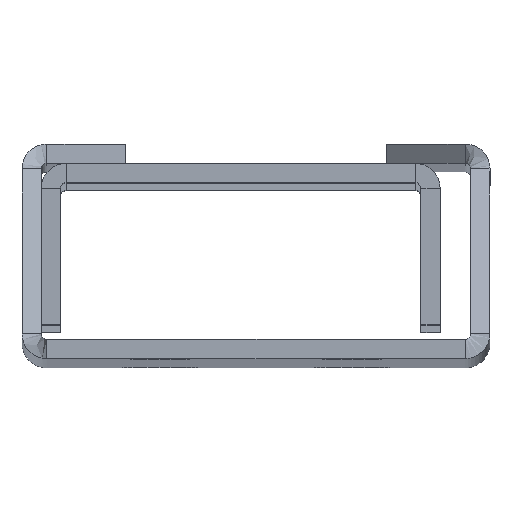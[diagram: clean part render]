
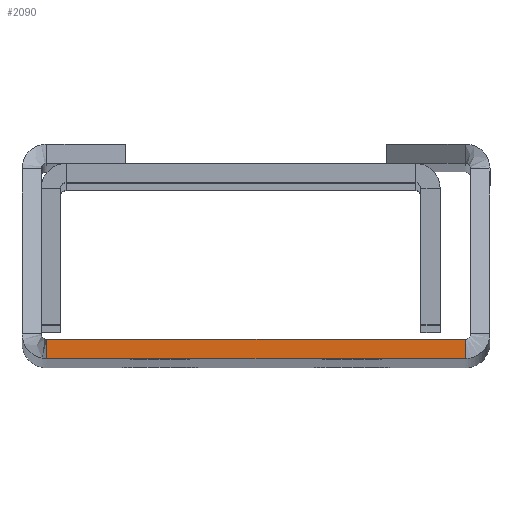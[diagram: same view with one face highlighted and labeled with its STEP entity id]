
A CAD part, top view. The second image highlights one B-rep face of the part: STEP entity #2090.
In plain terms, the highlighted planar face has unit normal (0, 0, 1).
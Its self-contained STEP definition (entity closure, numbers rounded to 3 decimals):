
#109 = VERTEX_POINT ( 'NONE', #2426 ) ;
#503 = DIRECTION ( 'NONE',  ( 1., 0., 0. ) ) ;
#588 = CARTESIAN_POINT ( 'NONE',  ( 55.263, 0., 0. ) ) ;
#635 = VECTOR ( 'NONE', #503, 1000. ) ;
#745 = AXIS2_PLACEMENT_3D ( 'NONE', #1561, #1995, #929 ) ;
#813 = DIRECTION ( 'NONE',  ( 1., 0., 0. ) ) ;
#815 = ORIENTED_EDGE ( 'NONE', *, *, #2359, .F. ) ;
#821 = CARTESIAN_POINT ( 'NONE',  ( 0., 0., 0. ) ) ;
#861 = ORIENTED_EDGE ( 'NONE', *, *, #1062, .T. ) ;
#881 = VECTOR ( 'NONE', #1843, 1000. ) ;
#920 = VERTEX_POINT ( 'NONE', #2023 ) ;
#925 = CARTESIAN_POINT ( 'NONE',  ( 0.737, -2.5, 0. ) ) ;
#929 = DIRECTION ( 'NONE',  ( 1., 0., 0. ) ) ;
#995 = ORIENTED_EDGE ( 'NONE', *, *, #1330, .T. ) ;
#1011 = CARTESIAN_POINT ( 'NONE',  ( 0.737, 0., 0. ) ) ;
#1051 = DIRECTION ( 'NONE',  ( 0., -1., 0. ) ) ;
#1062 = EDGE_CURVE ( 'NONE', #920, #1331, #1680, .T. ) ;
#1151 = PLANE ( 'NONE',  #745 ) ;
#1330 = EDGE_CURVE ( 'NONE', #1331, #109, #1348, .T. ) ;
#1331 = VERTEX_POINT ( 'NONE', #925 ) ;
#1348 = LINE ( 'NONE', #1784, #635 ) ;
#1437 = LINE ( 'NONE', #1895, #2029 ) ;
#1561 = CARTESIAN_POINT ( 'NONE',  ( 0., -2.5, 0. ) ) ;
#1624 = VECTOR ( 'NONE', #813, 1000. ) ;
#1680 = LINE ( 'NONE', #1011, #881 ) ;
#1784 = CARTESIAN_POINT ( 'NONE',  ( 0., -2.5, 0. ) ) ;
#1843 = DIRECTION ( 'NONE',  ( 0., -1., 0. ) ) ;
#1860 = LINE ( 'NONE', #821, #1624 ) ;
#1895 = CARTESIAN_POINT ( 'NONE',  ( 55.263, 0., 0. ) ) ;
#1995 = DIRECTION ( 'NONE',  ( 0., 0., 1. ) ) ;
#2023 = CARTESIAN_POINT ( 'NONE',  ( 0.737, 0., 0. ) ) ;
#2029 = VECTOR ( 'NONE', #1051, 1000. ) ;
#2090 = ADVANCED_FACE ( 'NONE', ( #2436 ), #1151, .T. ) ;
#2359 = EDGE_CURVE ( 'NONE', #920, #2553, #1860, .T. ) ;
#2426 = CARTESIAN_POINT ( 'NONE',  ( 55.263, -2.5, 0. ) ) ;
#2436 = FACE_OUTER_BOUND ( 'NONE', #2724, .T. ) ;
#2553 = VERTEX_POINT ( 'NONE', #588 ) ;
#2714 = EDGE_CURVE ( 'NONE', #2553, #109, #1437, .T. ) ;
#2724 = EDGE_LOOP ( 'NONE', ( #815, #861, #995, #2742 ) ) ;
#2742 = ORIENTED_EDGE ( 'NONE', *, *, #2714, .F. ) ;
